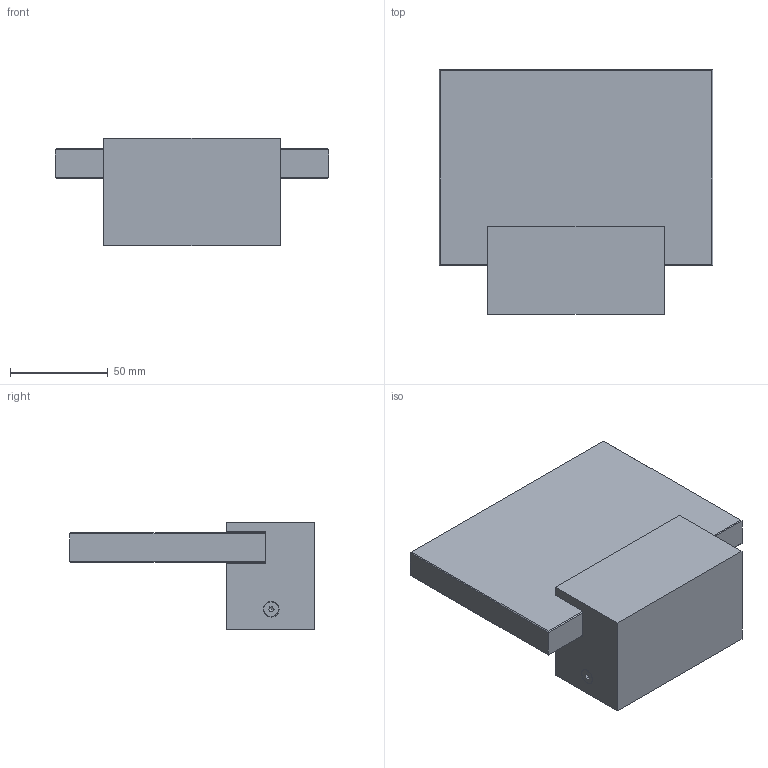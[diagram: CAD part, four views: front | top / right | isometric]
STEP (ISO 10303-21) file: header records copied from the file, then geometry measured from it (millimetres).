
FILE_DESCRIPTION (( 'STEP AP214' ), '1' );
FILE_NAME ('CUSTOM-A3033101.STEP', '2026-01-13T09:43:35', ( '' ), ( '' ), 'SwSTEP 2.0', 'SolidWorks 2025', '' );
FILE_SCHEMA (( 'AUTOMOTIVE_DESIGN' ));
Length unit declared in the file: millimetre
Products named in the file (5): BASE_CUSTOM; CUSTOM-A3033101; ACRILICO_BASE; ISO 10642 - M4 x 8 - 8N_ISO 10642 - M4 x 8 - 8N; Pletina instalación
Assembly tree (5 placements, depth 2):
  CUSTOM-A3033101
    BASE_CUSTOM
    ACRILICO_BASE
    ISO 10642 - M4 x 8 - 8N_ISO 10642 - M4 x 8 - 8N  x2
    Pletina instalación
Bounding box: 140 x 125 x 55 mm (x, y, z)
Volume: 309917.3 mm3; surface area: 72050.6 mm2
Topology: 5 solids, 5 shells, 125 faces, 294 edges, 182 vertices
Faces by surface type: plane 83, cylinder 28, cone 12, torus 2
Full cylindrical faces by diameter (mm): 3.5 x2, 4 x4, 4.9 x2, 7 x2, 7.53 x2, 8 x2
Entity records: 3068 total; most frequent: DIRECTION 518, CARTESIAN_POINT 493, ORIENTED_EDGE 452, EDGE_CURVE 226, AXIS2_PLACEMENT_3D 179, VECTOR 160, LINE 160, VERTEX_POINT 154
